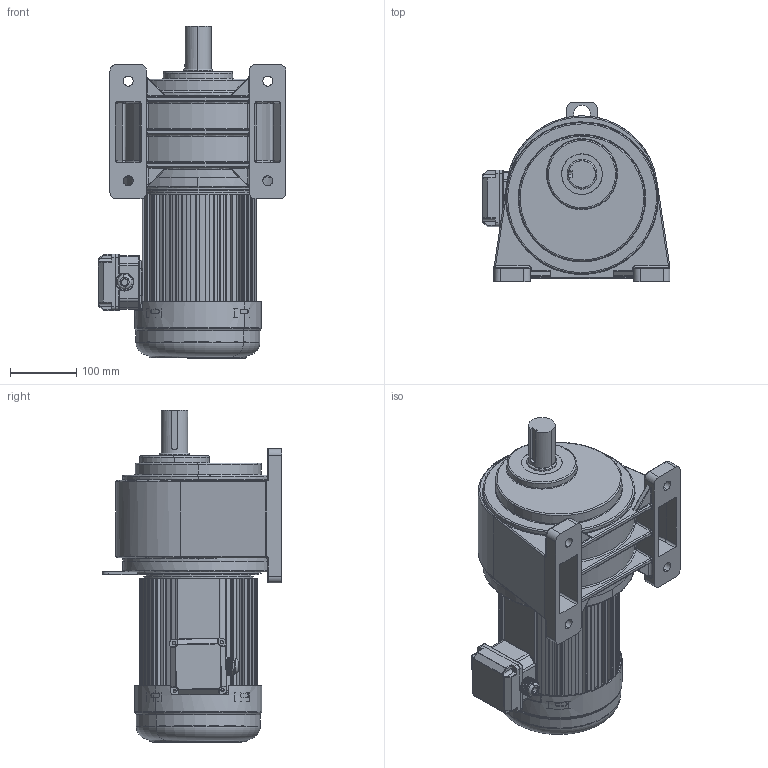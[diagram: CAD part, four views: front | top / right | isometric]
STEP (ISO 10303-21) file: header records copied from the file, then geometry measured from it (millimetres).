
FILE_DESCRIPTION (( 'STEP AP203' ), '1' );
FILE_NAME ('1500W饜5#湍价陬拏宒.STEP', '2020-04-16T08:50:43', ( 'china' ), ( 'china' ), 'SwSTEP 2.0', 'SolidWorks 2019', '' );
FILE_SCHEMA (( 'CONFIG_CONTROL_DESIGN' ));
Length unit declared in the file: millimetre
Products named in the file (10): 諉芛; 湍价陬諉盄碟裔; 1500W棠憤迖殤; 5-1500w2200wxianggai; 1500W儂褲; 怀堤粣; 瑞欶; xiangti-5w; 蜊輛綴諉盄碟釱3; 1500W饜5#湍价陬拏宒
Assembly tree (9 placements, depth 2):
  1500W饜5#湍价陬拏宒
    1500W儂褲
    瑞欶
    蜊輛綴諉盄碟釱3
    諉芛
    湍价陬諉盄碟裔
    1500W棠憤迖殤
    5-1500w2200wxianggai
    怀堤粣
    xiangti-5w
Bounding box: 283.01 x 271 x 499.95 mm (x, y, z)
Volume: 3902307.4 mm3; surface area: 1278633.3 mm2
Topology: 9 solids, 20 shells, 2996 faces, 8063 edges, 5106 vertices
Faces by surface type: plane 1183, cylinder 1149, bspline 559, torus 67, cone 26, sphere 12
Entity records: 130027 total; most frequent: CARTESIAN_POINT 56471, ORIENTED_EDGE 15992, DIRECTION 14164, EDGE_CURVE 7996, VERTEX_POINT 5105, AXIS2_PLACEMENT_3D 4979, VECTOR 4206, LINE 4206
